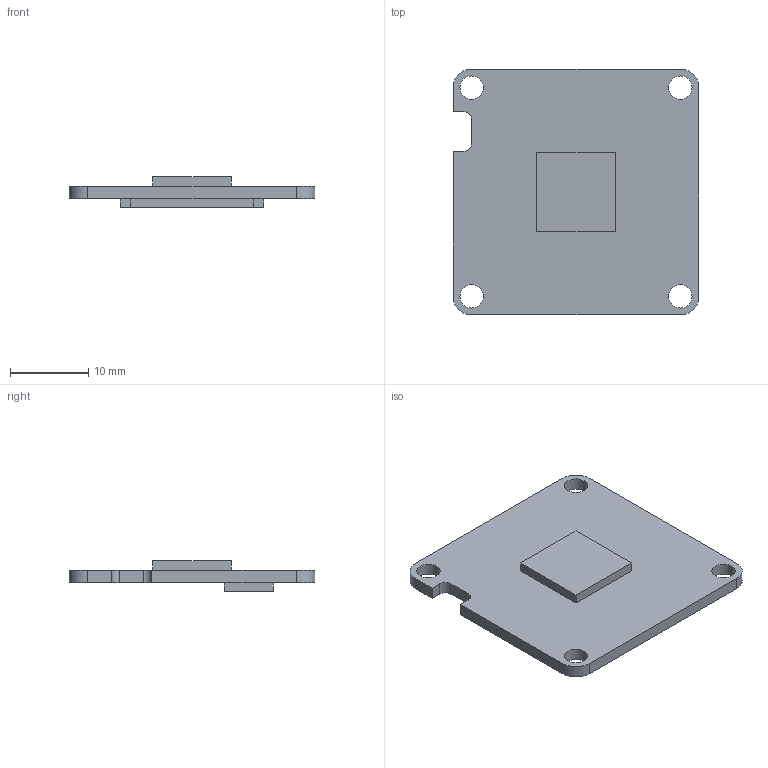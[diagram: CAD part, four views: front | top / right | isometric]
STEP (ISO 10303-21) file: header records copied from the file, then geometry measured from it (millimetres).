
FILE_DESCRIPTION(/* description */ ('VariCAD 2008 1.04 AP-203'),/* implementation_level */ '2;1');
FILE_NAME(/* name */ '0353-00-06',/* time_stamp */ '2008-06-02T23:31:33-06:00',/* author */ (''),/* organization */ (''),/* preprocessor_version */ 'ST-DEVELOPER v10',/* originating_system */ 'VariCAD 2008 1.04; kernel version (20071230)',/* authorisation */ '');
FILE_SCHEMA (('CONFIG_CONTROL_DESIGN'));
Length unit declared in the file: millimetre
Products named in the file (1): Part
Bounding box: 31.4 x 31.4 x 3.95 mm (x, y, z)
Volume: 1705.3 mm3; surface area: 2254.1 mm2
Topology: 1 solids, 1 shells, 38 faces, 102 edges, 68 vertices
Faces by surface type: plane 24, cylinder 14
Entity records: 1256 total; most frequent: DIRECTION 210, CARTESIAN_POINT 210, ORIENTED_EDGE 204, EDGE_CURVE 102, LINE 74, VECTOR 74, VERTEX_POINT 68, AXIS2_PLACEMENT_3D 68
